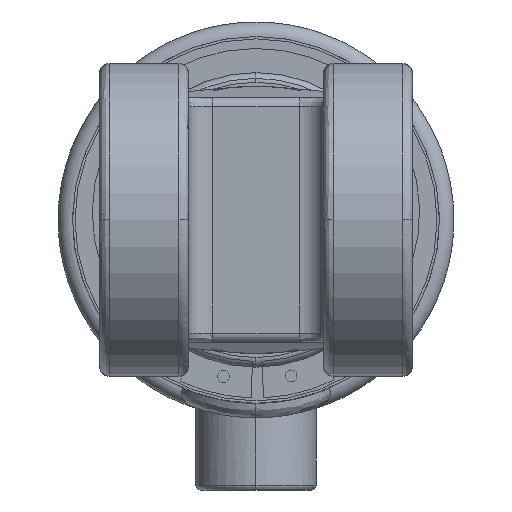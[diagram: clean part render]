
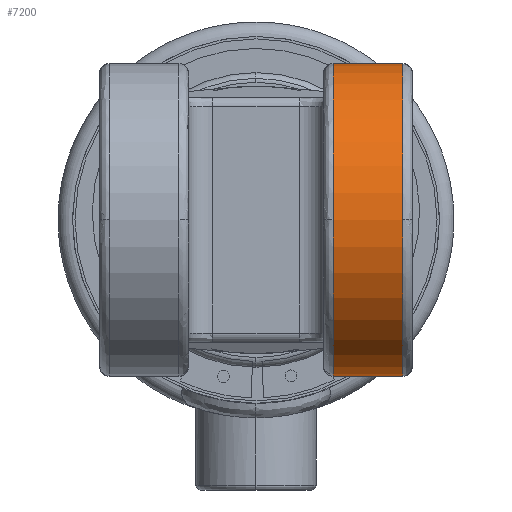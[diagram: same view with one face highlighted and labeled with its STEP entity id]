
A CAD part, left-side view. The second image highlights one B-rep face of the part: STEP entity #7200.
In plain terms, the highlighted cylindrical face has radius 32.5 mm (diameter 65 mm), a partial arc.
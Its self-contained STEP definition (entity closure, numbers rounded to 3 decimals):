
#18 = AXIS2_PLACEMENT_3D ( 'NONE', #1970, #6359, #10745 ) ;
#131 = CARTESIAN_POINT ( 'NONE',  ( 44.795, -30.5, -32.5 ) ) ;
#253 = CARTESIAN_POINT ( 'NONE',  ( 44.795, -16., 0. ) ) ;
#664 = CIRCLE ( 'NONE', #3658, 32.5 ) ;
#721 = VERTEX_POINT ( 'NONE', #1036 ) ;
#889 = VERTEX_POINT ( 'NONE', #6151 ) ;
#1006 = VERTEX_POINT ( 'NONE', #131 ) ;
#1036 = CARTESIAN_POINT ( 'NONE',  ( 77.295, -16., 0. ) ) ;
#1199 = DIRECTION ( 'NONE',  ( 1., 0., 0. ) ) ;
#1266 = CARTESIAN_POINT ( 'NONE',  ( 44.795, -16., 0. ) ) ;
#1430 = ORIENTED_EDGE ( 'NONE', *, *, #7378, .F. ) ;
#1613 = DIRECTION ( 'NONE',  ( 0., 1., 0. ) ) ;
#1887 = DIRECTION ( 'NONE',  ( 0., 1., 0. ) ) ;
#1970 = CARTESIAN_POINT ( 'NONE',  ( 44.795, -32.5, 0. ) ) ;
#1995 = ORIENTED_EDGE ( 'NONE', *, *, #6778, .F. ) ;
#2061 = VECTOR ( 'NONE', #1887, 1000. ) ;
#2127 = ORIENTED_EDGE ( 'NONE', *, *, #4488, .T. ) ;
#2172 = DIRECTION ( 'NONE',  ( 1., 0., 0. ) ) ;
#2333 = AXIS2_PLACEMENT_3D ( 'NONE', #253, #6499, #1199 ) ;
#2599 = CARTESIAN_POINT ( 'NONE',  ( 44.795, -30.5, 0. ) ) ;
#2786 = EDGE_CURVE ( 'NONE', #9232, #889, #6767, .T. ) ;
#3231 = ORIENTED_EDGE ( 'NONE', *, *, #10873, .F. ) ;
#3491 = DIRECTION ( 'NONE',  ( 0., 0., 1. ) ) ;
#3658 = AXIS2_PLACEMENT_3D ( 'NONE', #1266, #7446, #2172 ) ;
#4488 = EDGE_CURVE ( 'NONE', #889, #1006, #6245, .T. ) ;
#4952 = LINE ( 'NONE', #7163, #2061 ) ;
#5016 = ORIENTED_EDGE ( 'NONE', *, *, #10648, .T. ) ;
#5124 = FACE_OUTER_BOUND ( 'NONE', #6524, .T. ) ;
#5166 = AXIS2_PLACEMENT_3D ( 'NONE', #2599, #8747, #3491 ) ;
#5543 = LINE ( 'NONE', #9832, #9922 ) ;
#6151 = CARTESIAN_POINT ( 'NONE',  ( 77.295, -30.5, 0. ) ) ;
#6245 = CIRCLE ( 'NONE', #7615, 32.5 ) ;
#6258 = ORIENTED_EDGE ( 'NONE', *, *, #2786, .T. ) ;
#6359 = DIRECTION ( 'NONE',  ( 0., 1., 0. ) ) ;
#6499 = DIRECTION ( 'NONE',  ( 0., 1., 0. ) ) ;
#6524 = EDGE_LOOP ( 'NONE', ( #6258, #2127, #5016, #3231, #1430, #1995 ) ) ;
#6767 = CIRCLE ( 'NONE', #5166, 32.5 ) ;
#6778 = EDGE_CURVE ( 'NONE', #9232, #10828, #5543, .T. ) ;
#6890 = CARTESIAN_POINT ( 'NONE',  ( 44.795, -30.5, 0. ) ) ;
#6942 = CARTESIAN_POINT ( 'NONE',  ( 44.795, -30.5, 32.5 ) ) ;
#7163 = CARTESIAN_POINT ( 'NONE',  ( 44.795, -32.5, -32.5 ) ) ;
#7200 = ADVANCED_FACE ( 'NONE', ( #5124 ), #9510, .T. ) ;
#7360 = CARTESIAN_POINT ( 'NONE',  ( 44.795, -16., 32.5 ) ) ;
#7378 = EDGE_CURVE ( 'NONE', #10828, #721, #664, .T. ) ;
#7446 = DIRECTION ( 'NONE',  ( 0., 1., 0. ) ) ;
#7615 = AXIS2_PLACEMENT_3D ( 'NONE', #6890, #1613, #7771 ) ;
#7771 = DIRECTION ( 'NONE',  ( 0., 0., 1. ) ) ;
#8747 = DIRECTION ( 'NONE',  ( 0., 1., 0. ) ) ;
#9232 = VERTEX_POINT ( 'NONE', #6942 ) ;
#9510 = CYLINDRICAL_SURFACE ( 'NONE', #18, 32.5 ) ;
#9759 = CIRCLE ( 'NONE', #2333, 32.5 ) ;
#9832 = CARTESIAN_POINT ( 'NONE',  ( 44.795, -32.5, 32.5 ) ) ;
#9837 = VERTEX_POINT ( 'NONE', #11314 ) ;
#9922 = VECTOR ( 'NONE', #10718, 1000. ) ;
#10648 = EDGE_CURVE ( 'NONE', #1006, #9837, #4952, .T. ) ;
#10718 = DIRECTION ( 'NONE',  ( 0., 1., 0. ) ) ;
#10745 = DIRECTION ( 'NONE',  ( 0., 0., 1. ) ) ;
#10828 = VERTEX_POINT ( 'NONE', #7360 ) ;
#10873 = EDGE_CURVE ( 'NONE', #721, #9837, #9759, .T. ) ;
#11314 = CARTESIAN_POINT ( 'NONE',  ( 44.795, -16., -32.5 ) ) ;
